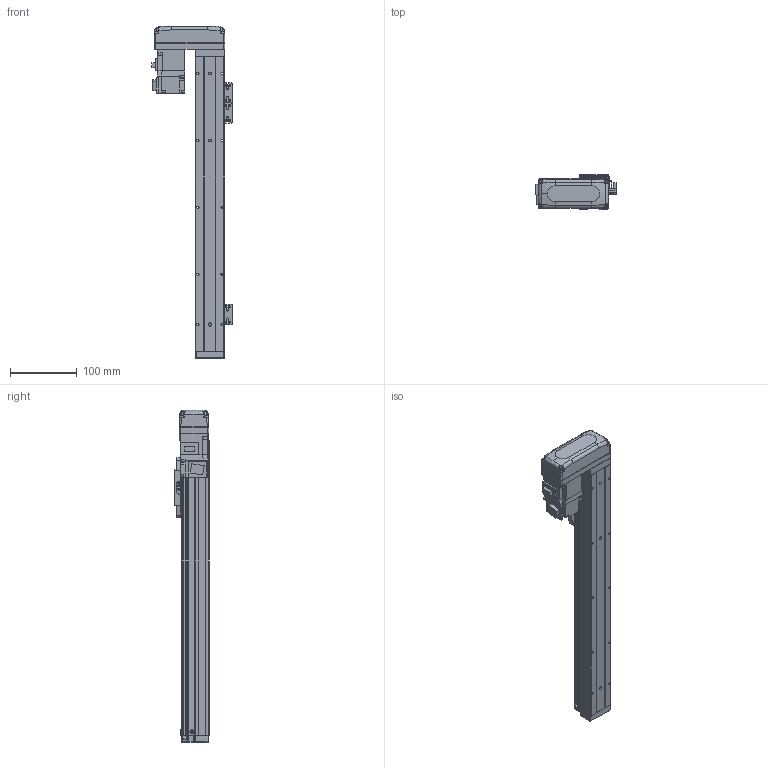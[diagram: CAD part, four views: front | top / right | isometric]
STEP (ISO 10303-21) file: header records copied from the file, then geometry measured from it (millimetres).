
FILE_DESCRIPTION (( 'STEP AP203' ), '1' );
FILE_NAME ('BTH40-300-BR-M05-C4.step', '2021-12-16T00:21:16', ( '微软用户' ), ( '微软中国' ), 'SwSTEP 2.0', 'SolidWorks 2020', '' );
FILE_SCHEMA (( 'CONFIG_CONTROL_DESIGN' ));
Length unit declared in the file: millimetre
Products named in the file (19): GBT96.1-2002 3×0.8; BTH40-027-1; BTH-M3X5X6; BTH40-022; BTH50-026; GBT70.1-2000 M3×16; GBT 70.1-M2.5×6; BTH40-300-BR-M05-C4; BTH50-028; BTH40-004; BTH50-023; BTH40-013; BTH40-001-50_BTH40-001-300; BTH50-024; HG-KR13; BTH40-003; GBT 70.1-M3℅6; GBT 70.3-M3℅6; BTH40-006
Assembly tree (47 placements, depth 2):
  BTH40-300-BR-M05-C4
    BTH40-001-50_BTH40-001-300
    BTH40-003
    BTH40-006
    BTH-M3X5X6  x8
    GBT70.1-2000 M3×16  x4
    BTH50-028  x2
    BTH50-023  x3
    BTH50-024  x3
    GBT 70.1-M3℅6  x6
    GBT96.1-2002 3×0.8  x6
    BTH40-022
    GBT 70.1-M2.5×6  x2
    BTH40-004
    BTH40-013
    HG-KR13
    GBT 70.3-M3℅6  x4
    BTH40-027-1
    BTH50-026
Bounding box: 120 x 52 x 496 mm (x, y, z)
Volume: 983369.7 mm3; surface area: 186484.3 mm2
Topology: 49 solids, 49 shells, 1975 faces, 4635 edges, 2850 vertices
Faces by surface type: plane 1052, cylinder 487, cone 270, torus 128, bspline 34, sphere 4
Entity records: 39395 total; most frequent: CARTESIAN_POINT 7546, DIRECTION 6168, ORIENTED_EDGE 5916, EDGE_CURVE 2958, AXIS2_PLACEMENT_3D 2107, LINE 1954, VECTOR 1954, VERTEX_POINT 1837
